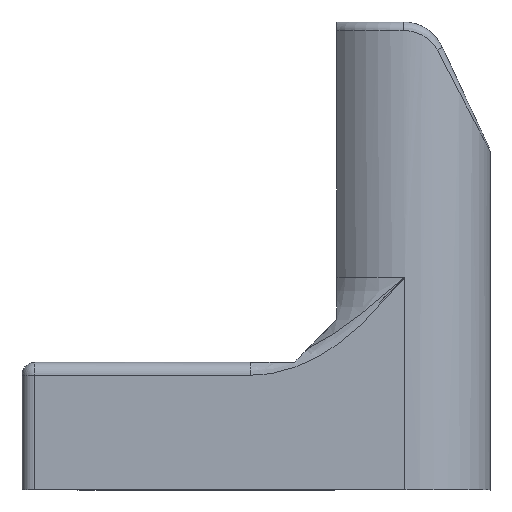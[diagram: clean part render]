
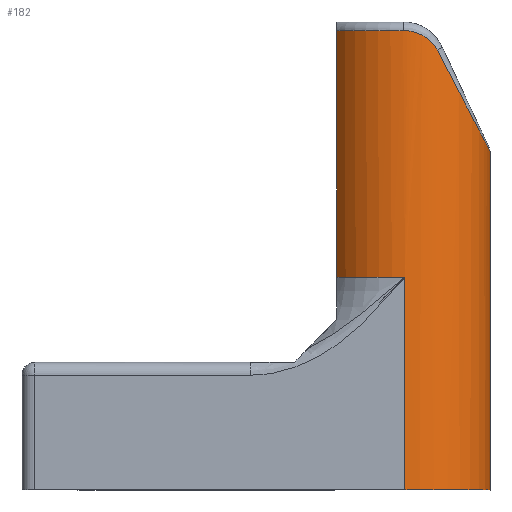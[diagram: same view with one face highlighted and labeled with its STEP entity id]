
A CAD part, front view. The second image highlights one B-rep face of the part: STEP entity #182.
In plain terms, the highlighted cylindrical face has radius 10 mm (diameter 20 mm), a partial arc.
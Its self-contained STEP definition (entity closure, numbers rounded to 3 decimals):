
#75=CARTESIAN_POINT('Control Point',(3.828,-9.238,51.69)) ;
#76=CARTESIAN_POINT('Control Point',(4.735,-8.862,49.94)) ;
#77=CARTESIAN_POINT('Control Point',(6.437,-7.842,46.655)) ;
#78=CARTESIAN_POINT('Control Point',(8.436,-5.636,42.797)) ;
#79=CARTESIAN_POINT('Control Point',(9.709,-2.945,40.34)) ;
#80=CARTESIAN_POINT('Control Point',(10.,-0.982,39.778)) ;
#81=CARTESIAN_POINT('Control Point',(10.,0.,39.778)) ;
#82=CARTESIAN_POINT('Vertex',(10.,0.,39.778)) ;
#84=CARTESIAN_POINT('Vertex',(3.828,-9.238,51.69)) ;
#117=CARTESIAN_POINT('Axis2P3D Location',(0.,0.,90.)) ;
#122=CARTESIAN_POINT('Line Origine',(10.,0.,90.)) ;
#126=CARTESIAN_POINT('Vertex',(10.,0.,0.)) ;
#130=CARTESIAN_POINT('Control Point',(3.828,-9.238,51.69)) ;
#131=CARTESIAN_POINT('Control Point',(3.378,-9.425,52.558)) ;
#132=CARTESIAN_POINT('Control Point',(2.672,-9.687,53.254)) ;
#133=CARTESIAN_POINT('Control Point',(1.778,-9.915,53.752)) ;
#134=CARTESIAN_POINT('Control Point',(0.795,-10.018,54.)) ;
#135=CARTESIAN_POINT('Control Point',(-0.2,-9.998,54.)) ;
#136=CARTESIAN_POINT('Vertex',(-0.2,-9.998,54.)) ;
#139=CARTESIAN_POINT('Axis2P3D Location',(0.,0.,54.)) ;
#143=CARTESIAN_POINT('Vertex',(-8.,-6.,54.)) ;
#146=CARTESIAN_POINT('Line Origine',(-8.,-6.,90.)) ;
#150=CARTESIAN_POINT('Vertex',(-8.,-6.,25.)) ;
#153=CARTESIAN_POINT('Axis2P3D Location',(0.,0.,25.)) ;
#157=CARTESIAN_POINT('Vertex',(0.,-10.,25.)) ;
#160=CARTESIAN_POINT('Line Origine',(0.,-10.,90.)) ;
#164=CARTESIAN_POINT('Vertex',(0.,-10.,0.)) ;
#167=CARTESIAN_POINT('Axis2P3D Location',(0.,0.,0.)) ;
#118=DIRECTION('Axis2P3D Direction',(-0.,0.,-1.)) ;
#119=DIRECTION('Axis2P3D XDirection',(1.,0.,-0.)) ;
#123=DIRECTION('Vector Direction',(0.,0.,-1.)) ;
#140=DIRECTION('Axis2P3D Direction',(-0.,0.,-1.)) ;
#147=DIRECTION('Vector Direction',(0.,0.,-1.)) ;
#154=DIRECTION('Axis2P3D Direction',(-0.,0.,-1.)) ;
#161=DIRECTION('Vector Direction',(0.,0.,-1.)) ;
#168=DIRECTION('Axis2P3D Direction',(-0.,0.,-1.)) ;
#120=AXIS2_PLACEMENT_3D('Cylinder Axis2P3D',#117,#118,#119) ;
#141=AXIS2_PLACEMENT_3D('Circle Axis2P3D',#139,#140,$) ;
#155=AXIS2_PLACEMENT_3D('Circle Axis2P3D',#153,#154,$) ;
#169=AXIS2_PLACEMENT_3D('Circle Axis2P3D',#167,#168,$) ;
#173=ORIENTED_EDGE('',*,*,#128,.F.) ;
#174=ORIENTED_EDGE('',*,*,#86,.T.) ;
#175=ORIENTED_EDGE('',*,*,#138,.T.) ;
#176=ORIENTED_EDGE('',*,*,#145,.T.) ;
#177=ORIENTED_EDGE('',*,*,#152,.F.) ;
#178=ORIENTED_EDGE('',*,*,#159,.T.) ;
#179=ORIENTED_EDGE('',*,*,#166,.T.) ;
#180=ORIENTED_EDGE('',*,*,#171,.F.) ;
#124=VECTOR('Line Direction',#123,1.) ;
#148=VECTOR('Line Direction',#147,1.) ;
#162=VECTOR('Line Direction',#161,1.) ;
#182=ADVANCED_FACE('Importato1',(#181),#121,.T.) ;
#129=B_SPLINE_CURVE_WITH_KNOTS('',5,(#130,#131,#132,#133,#134,#135),.UNSPECIFIED.,.F.,.U.,(6,6),(0.,7.009),.UNSPECIFIED.) ;
#142=CIRCLE('generated circle',#141,10.) ;
#156=CIRCLE('generated circle',#155,10.) ;
#170=CIRCLE('generated circle',#169,10.) ;
#121=CYLINDRICAL_SURFACE('generated cylinder',#120,10.) ;
#86=EDGE_CURVE('',#83,#85,#74,.F.) ;
#128=EDGE_CURVE('',#83,#127,#125,.T.) ;
#138=EDGE_CURVE('',#85,#137,#129,.T.) ;
#145=EDGE_CURVE('',#137,#144,#142,.T.) ;
#152=EDGE_CURVE('',#151,#144,#149,.F.) ;
#159=EDGE_CURVE('',#151,#158,#156,.F.) ;
#166=EDGE_CURVE('',#158,#165,#163,.T.) ;
#171=EDGE_CURVE('',#127,#165,#170,.T.) ;
#172=EDGE_LOOP('',(#173,#174,#175,#176,#177,#178,#179,#180)) ;
#181=FACE_OUTER_BOUND('',#172,.T.) ;
#125=LINE('Line',#122,#124) ;
#149=LINE('Line',#146,#148) ;
#163=LINE('Line',#160,#162) ;
#83=VERTEX_POINT('',#82) ;
#85=VERTEX_POINT('',#84) ;
#127=VERTEX_POINT('',#126) ;
#137=VERTEX_POINT('',#136) ;
#144=VERTEX_POINT('',#143) ;
#151=VERTEX_POINT('',#150) ;
#158=VERTEX_POINT('',#157) ;
#165=VERTEX_POINT('',#164) ;
#74=(BOUNDED_CURVE()B_SPLINE_CURVE(3,(#75,#76,#77,#78,#79,#80,#81),.UNSPECIFIED.,.F.,.U.)B_SPLINE_CURVE_WITH_KNOTS((4,1,1,1,4),(5.105,9.383,13.66,17.937,22.215),.UNSPECIFIED.)CURVE()GEOMETRIC_REPRESENTATION_ITEM()RATIONAL_B_SPLINE_CURVE((1.,1.,1.,1.,1.,1.,1.))REPRESENTATION_ITEM('')) ;
